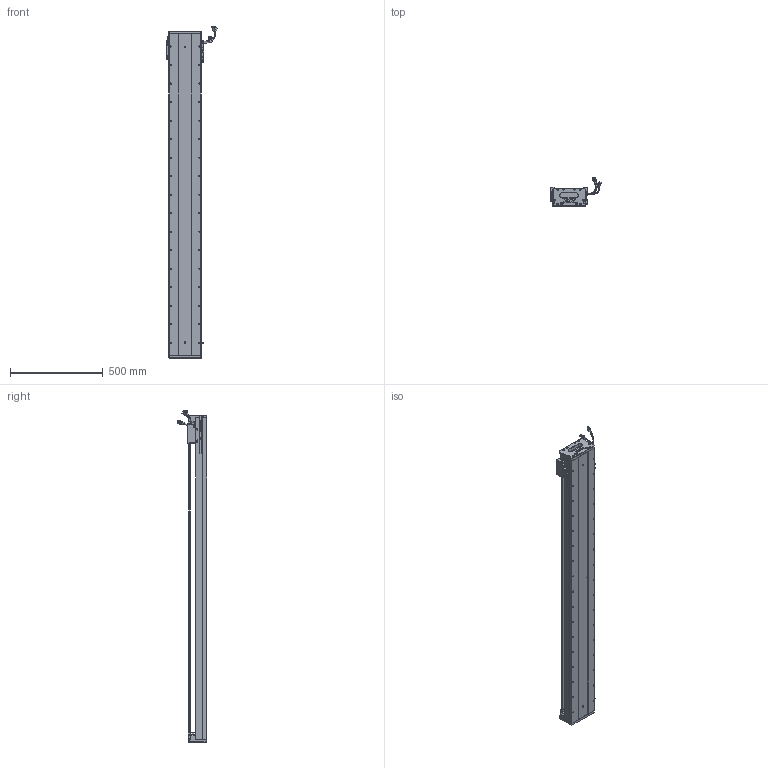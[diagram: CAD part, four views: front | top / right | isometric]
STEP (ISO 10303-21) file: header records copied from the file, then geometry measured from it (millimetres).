
FILE_DESCRIPTION (( 'STEP AP203' ), '1' );
FILE_NAME ('Z1-RY170D-1-L500-B-K.SLDASM_1550.step', '2021-05-17T08:53:21', ( '盈信电脑' ), ( '东莞市道滘镇水果街19号' ), 'SwSTEP 2.0', 'SolidWorks 2016', '' );
FILE_SCHEMA (( 'CONFIG_CONTROL_DESIGN' ));
Length unit declared in the file: millimetre
Products named in the file (36): Z-170詩湍傷裔啣; SCREW-M1.6-2; HARNESS-Part-1; SEAL; 覜茼ん672; SCREW-M1.6-1; PBU_SHEET; LABEL-Part-1; 170-Z-臏賑輸盄裔(21遴); Z1-RY170臏賑輸(21遴); SCALE-Part-2; Z1-RY170D-1-L500-B-K.SLDASM_1550; SEAL-Part-1; HARNESS; PSLH080_PSLF2; SHIELDPLATE; HOLDER0; SCALE-Part-1; Z1-RY170-L500耀郪菁釱_1550; Z1-RY170-L500詩湍145mm遵_1550; 140蚥薯蝶輸; SCREW-M1.6-3; HARNESS-Part-2; RY170直线电机感应器672光电感应片; SCALE; 榋妏寠巭燃_暯_M2_2; Z-RY170詩湍狟揤裔; COVER; 080黍杅芛假蚾釱21遴; SCREW-M1.7-1; COVER-Part-1; SCREW-M1.7; LABEL; Z-RY170詩湍奻揤裔; SCREW-M1.6; 140雄赽晤鎢ん堤盄
Assembly tree (41 placements, depth 4):
  Z1-RY170D-1-L500-B-K.SLDASM_1550
    Z1-RY170-L500耀郪菁釱_1550
    RY170直线电机感应器672光电感应片
    Z1-RY170臏賑輸(21遴)
    覜茼ん672  x3
    PSLH080_PSLF2
      SCALE
        SCALE-Part-1
        SCALE-Part-2
      HARNESS
        HARNESS-Part-1
        HARNESS-Part-2
      LABEL
        LABEL-Part-1
      COVER
        COVER-Part-1
      SEAL
        SEAL-Part-1
      榋妏寠巭燃_暯_M2_2
      SHIELDPLATE
      SCREW-M1.7
      SCREW-M1.7-1
      PBU_SHEET
      SCREW-M1.6
      SCREW-M1.6-1
      SCREW-M1.6-2
      SCREW-M1.6-3
      HOLDER0
    080黍杅芛假蚾釱21遴
    Z1-RY170-L500詩湍145mm遵_1550
    Z-170詩湍傷裔啣  x2
    Z-RY170詩湍奻揤裔  x2
    Z-RY170詩湍狟揤裔  x2
    140蚥薯蝶輸  x2
    170-Z-臏賑輸盄裔(21遴)
    140雄赽晤鎢ん堤盄
Bounding box: 275.33 x 158.11 x 1793.72 mm (x, y, z)
Volume: 8915186.1 mm3; surface area: 2222556.7 mm2
Topology: 36 solids, 36 shells, 3398 faces, 9269 edges, 5809 vertices
Faces by surface type: cylinder 1624, plane 1208, cone 444, torus 69, bspline 53
Entity records: 103245 total; most frequent: CARTESIAN_POINT 27794, ORIENTED_EDGE 15222, DIRECTION 14515, EDGE_CURVE 7611, AXIS2_PLACEMENT_3D 5312, VERTEX_POINT 4927, LINE 3891, VECTOR 3891
